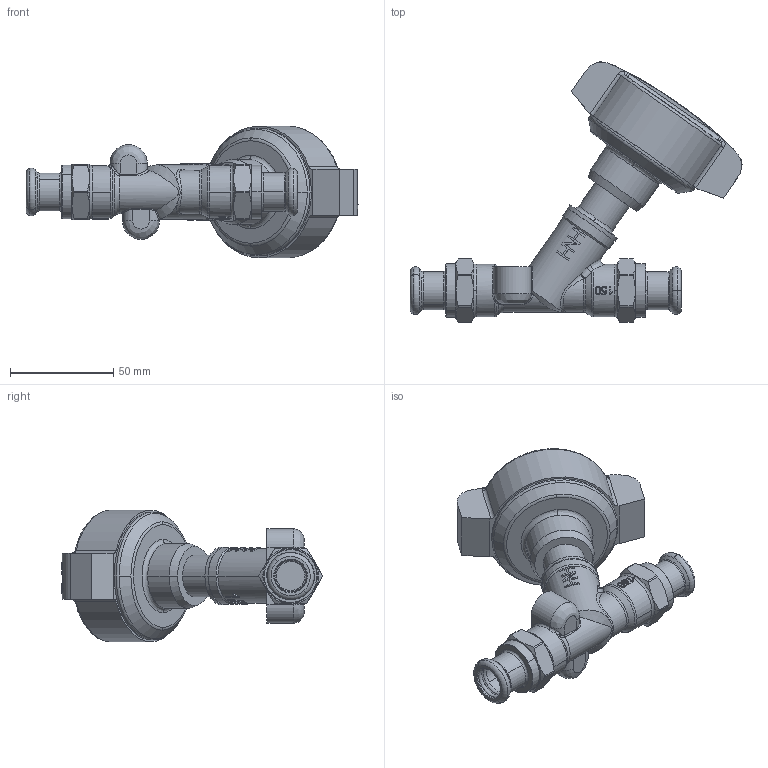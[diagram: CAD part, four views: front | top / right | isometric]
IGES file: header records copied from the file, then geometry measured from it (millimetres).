
Global section: file name: No Iges File Name specified; native system: AutoDesk Inventor R12.0; preprocessor: AutoDesk Inventor Iges Exporter R12.0; date: 20110824.164432; units: millimetre
Bounding box: 161.08 x 126.41 x 63.85 mm (x, y, z)
Volume: 207335.8 mm3; surface area: 36360.2 mm2
Topology: 1 solids, 3 shells, 714 faces, 1870 edges, 1220 vertices
Faces by surface type: plane 291, bspline 240, cylinder 84, revolution 38, cone 37, torus 24
